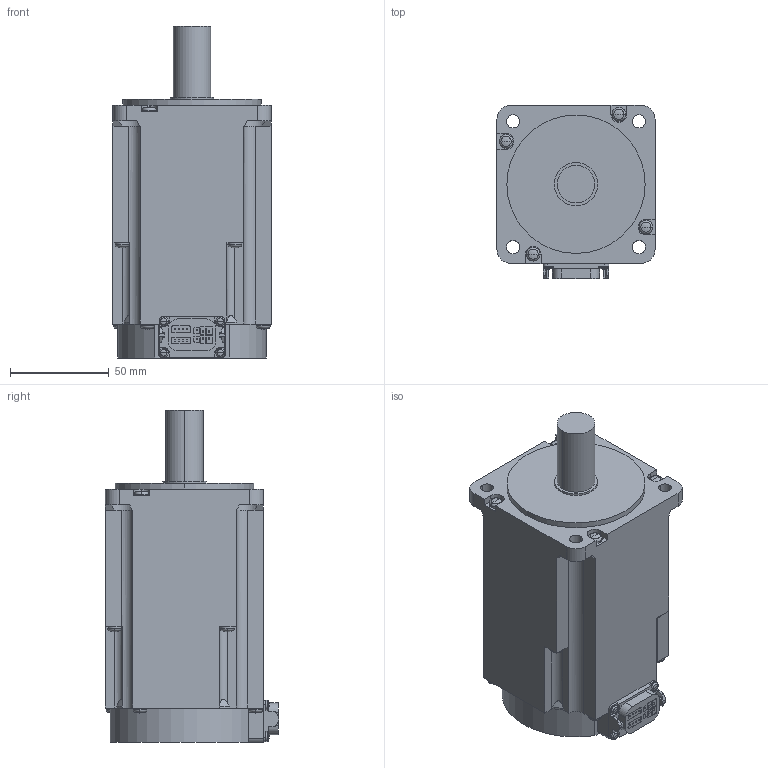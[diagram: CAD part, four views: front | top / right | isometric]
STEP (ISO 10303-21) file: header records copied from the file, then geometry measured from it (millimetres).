
FILE_DESCRIPTION((''),'2;1');
FILE_NAME('HK-KT7M3WB_-_ASM','2019-01-16T',('XE90682'),(''),'CREO PARAMETRIC BY PTC INC, 2016380','CREO PARAMETRIC BY PTC INC, 2016380','');
FILE_SCHEMA(('CONFIG_CONTROL_DESIGN'));
Length unit declared in the file: millimetre
Products named in the file (1): HK-KT7M3WB_-_ASM
Bounding box: 80 x 87.65 x 168 mm (x, y, z)
Volume: 725233.3 mm3; surface area: 56000.1 mm2
Topology: 1 solids, 1 shells, 401 faces, 1043 edges, 655 vertices
Faces by surface type: plane 220, cylinder 113, torus 32, sphere 32, cone 4
Entity records: 12245 total; most frequent: CARTESIAN_POINT 2274, DIRECTION 2124, ORIENTED_EDGE 2022, EDGE_CURVE 1011, AXIS2_PLACEMENT_3D 728, VECTOR 668, LINE 668, VERTEX_POINT 655
